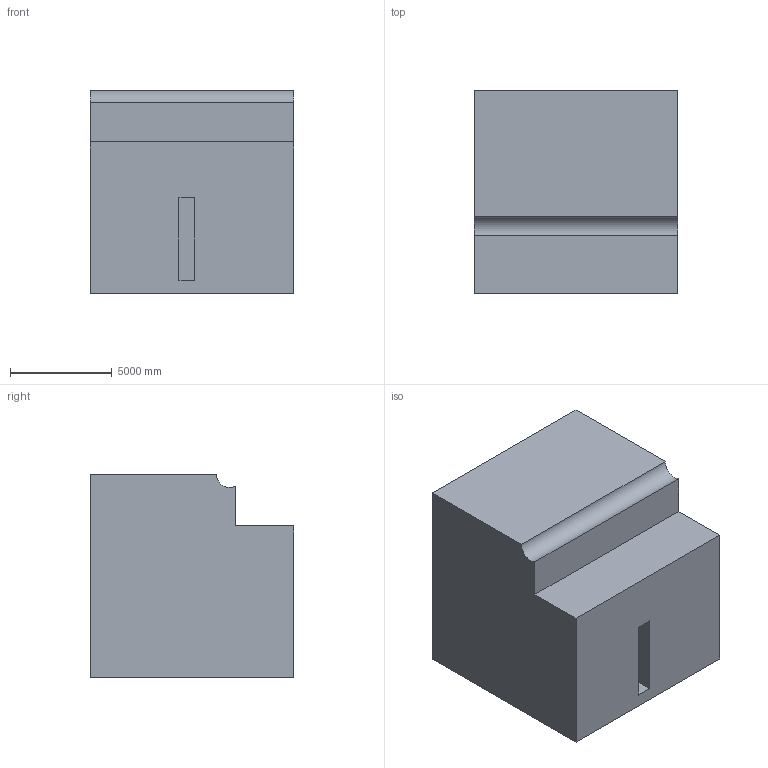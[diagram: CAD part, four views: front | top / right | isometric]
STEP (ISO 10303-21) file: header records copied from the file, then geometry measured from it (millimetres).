
FILE_DESCRIPTION (( 'STEP AP203' ), '1' );
FILE_NAME ('124.STEP', '2022-09-06T13:19:45', ( 'user' ), ( '' ), 'SwSTEP 2.0', 'SolidWorks 2021', '' );
FILE_SCHEMA (( 'CONFIG_CONTROL_DESIGN' ));
Length unit declared in the file: centimetre
Products named in the file (1): 124
Bounding box: 10000 x 10000 x 10000 mm (x, y, z)
Volume: 908051983921.2 mm3; surface area: 626446978.4 mm2
Topology: 1 solids, 1 shells, 14 faces, 33 edges, 22 vertices
Faces by surface type: plane 13, cylinder 1
Entity records: 476 total; most frequent: CARTESIAN_POINT 70, ORIENTED_EDGE 66, DIRECTION 65, EDGE_CURVE 33, LINE 31, VECTOR 31, VERTEX_POINT 22, AXIS2_PLACEMENT_3D 17
